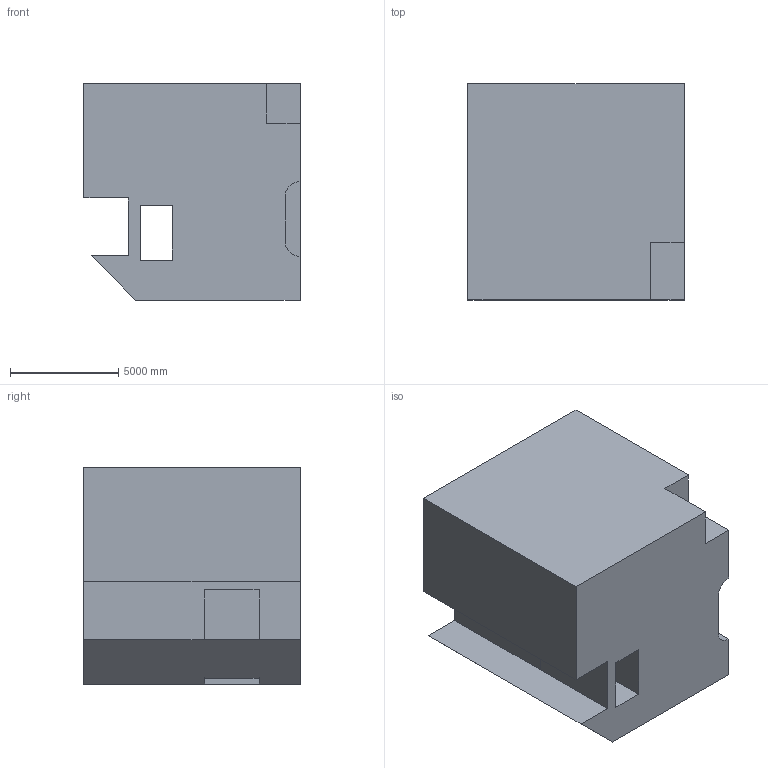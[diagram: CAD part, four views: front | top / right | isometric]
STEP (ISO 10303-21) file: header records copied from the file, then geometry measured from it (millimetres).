
FILE_DESCRIPTION (( 'STEP AP203' ), '1' );
FILE_NAME ('546.STEP', '2022-07-29T11:45:22', ( 'user' ), ( '' ), 'SwSTEP 2.0', 'SolidWorks 2021', '' );
FILE_SCHEMA (( 'CONFIG_CONTROL_DESIGN' ));
Length unit declared in the file: centimetre
Products named in the file (1): 546
Bounding box: 10000 x 10000 x 10000 mm (x, y, z)
Volume: 847839367667.1 mm3; surface area: 695569027.5 mm2
Topology: 1 solids, 1 shells, 26 faces, 78 edges, 52 vertices
Faces by surface type: plane 24, cylinder 2
Entity records: 951 total; most frequent: CARTESIAN_POINT 157, ORIENTED_EDGE 156, DIRECTION 136, EDGE_CURVE 78, VECTOR 74, LINE 74, VERTEX_POINT 52, AXIS2_PLACEMENT_3D 31
